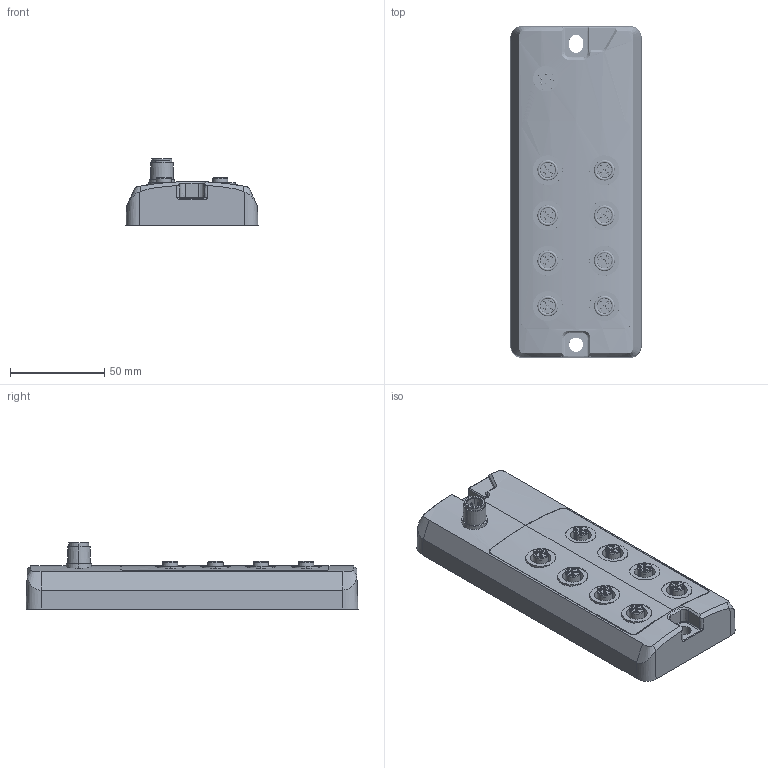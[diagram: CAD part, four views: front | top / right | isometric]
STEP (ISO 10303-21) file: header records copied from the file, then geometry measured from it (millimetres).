
FILE_DESCRIPTION((''),'2;1');
FILE_NAME('000-GS20-16EMPL1_ASM','2023-03-16T',('10009682'),(''),'CREO PARAMETRIC BY PTC INC, 2015290','CREO PARAMETRIC BY PTC INC, 2015290','');
FILE_SCHEMA(('CONFIG_CONTROL_DESIGN'));
Products named in the file (1): 000-GS20-16EMPL1_ASM
Bounding box: 70 x 176 x 35 mm (x, y, z)
Surface area: 86286.8 mm2 (no closed solid volume)
Topology: 0 solids, 0 shells, 2453 faces, 12349 edges, 12245 vertices
Faces by surface type: bspline 2345, torus 100, sphere 8
Entity records: 217611 total; most frequent: CARTESIAN_POINT 111415, DIRECTION 15900, TRIMMED_CURVE 13850, DEFINITIONAL_REPRESENTATION 12149, PCURVE 12149, COMPOSITE_CURVE_SEGMENT 12149, VECTOR 12016, LINE 12016
